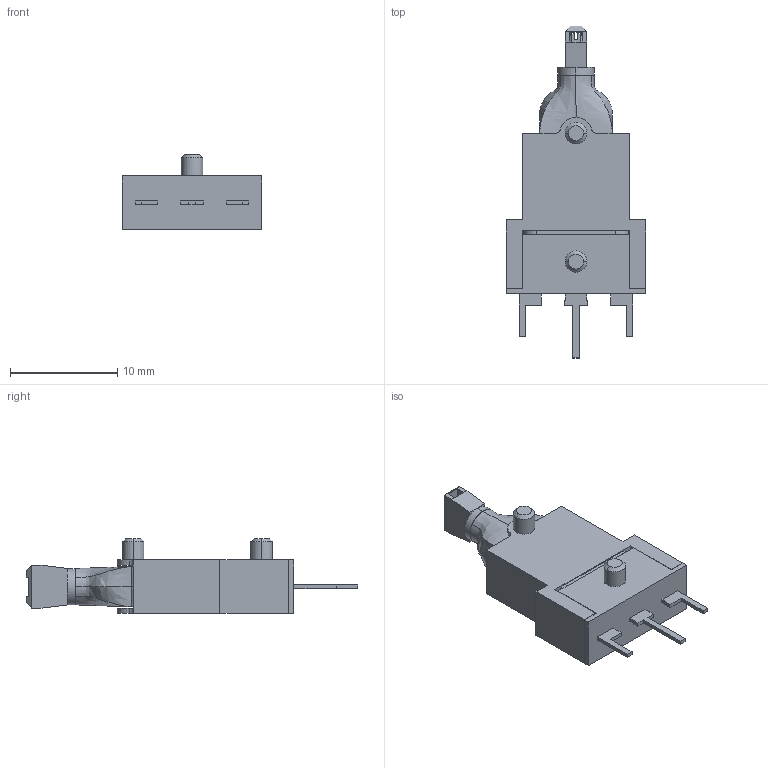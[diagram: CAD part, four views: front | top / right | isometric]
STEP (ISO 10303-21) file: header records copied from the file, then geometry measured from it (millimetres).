
FILE_DESCRIPTION (( 'STEP AP214' ), '1' );
FILE_NAME ('SSCN110101.STEP', '2011-04-01T07:12:59', ( '' ), ( '' ), 'SwSTEP 2.0', 'SolidWorks 2007', '' );
FILE_SCHEMA (( 'AUTOMOTIVE_DESIGN' ));
Length unit declared in the file: millimetre
Products named in the file (1): SSCN110101
Bounding box: 13 x 31.02 x 7 mm (x, y, z)
Volume: 944.7 mm3; surface area: 1466.1 mm2
Topology: 1 solids, 1 shells, 224 faces, 633 edges, 403 vertices
Faces by surface type: plane 154, cylinder 45, bspline 12, cone 9, torus 4
Entity records: 16755 total; most frequent: CARTESIAN_POINT 10142, ORIENTED_EDGE 1266, DIRECTION 1088, EDGE_CURVE 633, VECTOR 478, LINE 478, VERTEX_POINT 403, AXIS2_PLACEMENT_3D 305
